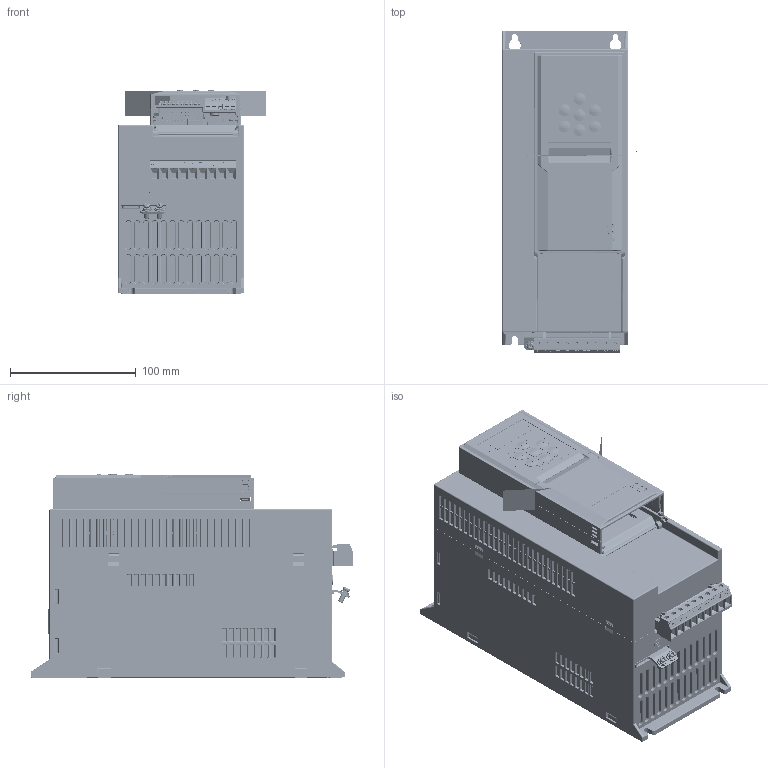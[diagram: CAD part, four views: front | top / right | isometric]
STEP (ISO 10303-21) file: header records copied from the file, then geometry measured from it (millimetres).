
FILE_DESCRIPTION((''),'2;1');
FILE_NAME('D3-DRIVE_REV00_ASM','2022-03-02T10:22:20',('wendong.luo'),(''),'CREO PARAMETRIC BY PTC INC, 2018100','CREO PARAMETRIC BY PTC INC, 2018100','');
FILE_SCHEMA(('CONFIG_CONTROL_DESIGN','GEOMETRIC_VALIDATION_PROPERTIES_MIM'));
Products named in the file (20): D3-MECHANICAL-PART; E0400006; E0400007; E0400017; M0202003; D3-PU_ASM; M0104033; E0100084; E0400023; E0400008; E0400009; E0400001; E0400011; E0100084_ASM; M0203006; M0203025; M0203032; M0104034; CU_NEW_ASM; D3-DRIVE_REV00_ASM
Assembly tree (21 placements, depth 4):
  D3-DRIVE_REV00_ASM
    D3-PU_ASM
      D3-MECHANICAL-PART
      E0400006
      E0400007
      E0400017
      M0202003  x2
    CU_NEW_ASM
      M0104033
      E0100084_ASM
        E0100084
        E0400023
        E0400008
        E0400009  x2
        E0400001
        E0400011
      M0203006
      M0203025
      M0203032
      M0104034
Bounding box: 117.25 x 256.69 x 161.65 mm (x, y, z)
Volume: 2468135.1 mm3; surface area: 474544.3 mm2
Topology: 30 solids, 58 shells, 17160 faces, 45473 edges, 29205 vertices
Faces by surface type: plane 9044, cylinder 3408, bspline 1896, extrusion 1616, cone 577, torus 441, sphere 178
Entity records: 755654 total; most frequent: CARTESIAN_POINT 215042, ORIENTED_EDGE 85692, DIRECTION 67248, PRESENTATION_STYLE_ASSIGNMENT 44617, EDGE_CURVE 42860, STYLED_ITEM 41990, CURVE_STYLE 41372, VECTOR 28354
